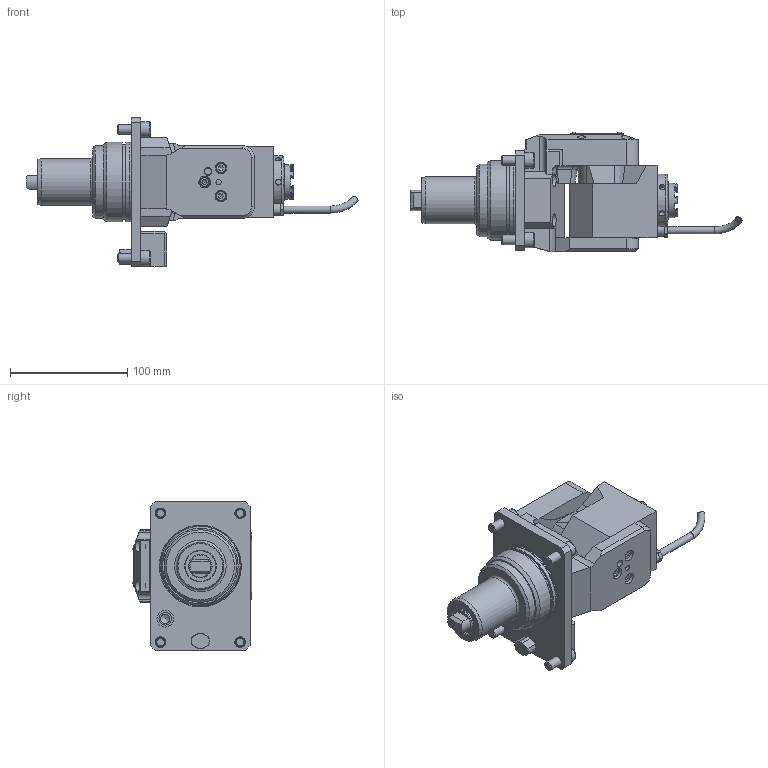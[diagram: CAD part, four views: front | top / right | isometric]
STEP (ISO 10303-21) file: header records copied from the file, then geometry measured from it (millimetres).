
FILE_DESCRIPTION(/* description */ (''),/* implementation_level */ '2;1');
FILE_NAME(/* name */ '192551',/* time_stamp */ '2020-01-17T12:24:05+01:00',/* author */ (''),/* organization */ (''),/* preprocessor_version */ 'ST-DEVELOPER v16.5',/* originating_system */ 'HiCAD 2017 2201.0 Build 268',/* authorisation */ '');
FILE_SCHEMA (('AUTOMOTIVE_DESIGN { 1 0 10303 214 1 1 1 1 }'));
Products named in the file (11): Root; Teil; ABCDEFGHIJKLMNOPQRSTUVWXYZ[\]^_`ABCDEFGHIJKLMNOP㏰﯌Ł; GEWINDE; DIN 13-M10x1; DIN 76-M6; 0°
Assembly tree (10 placements, depth 3):
  Root
    Teil
      ABCDEFGHIJKLMNOPQRSTUVWXYZ[\]^_`ABCDEFGHIJKLMNOP㏰﯌Ł
      ABCDEFGHIJKLMNOPQRSTUVWXYZ[\]^_`ABCDEFGHIJKLMNOP㏰﯌Ł
      GEWINDE
      GEWINDE
      GEWINDE
      GEWINDE
      DIN 13-M10x1
      DIN 76-M6
      0°
Bounding box: 283.54 x 102.3 x 127 mm (x, y, z)
Volume: 857510.1 mm3; surface area: 120002.8 mm2
Topology: 10 solids, 28 shells, 1053 faces, 2611 edges, 1694 vertices
Faces by surface type: plane 657, cylinder 252, cone 58, bspline 44, torus 37, sphere 5
Full cylindrical faces by diameter (mm): 2 x4, 2.2 x4, 3 x1, 4 x1, 4.5 x1, 4.773 x2, 5 x4, 5.1 x6, 5.5 x7, 6 x8, 6.1 x1, 6.25 x1, 6.466 x8, 6.5 x3, 6.6 x4, 8 x10, 8.5 x7, 8.773 x2, 8.92 x1, 9 x5, 10 x15, 10.82 x1, 11 x4, 13 x4, 14.18 x1, 14.27 x1, 18.2 x1, 19 x1, 20 x1, 21 x2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
Entity records: 67291 total; most frequent: CARTESIAN_POINT 16285, PRESENTATION_STYLE_ASSIGNMENT 5271, OVER_RIDING_STYLED_ITEM 5262, DIRECTION 4764, COLOUR_RGB 4626, DRAUGHTING_PRE_DEFINED_CURVE_FONT 4624, CURVE_STYLE 4624, ORIENTED_EDGE 4624
